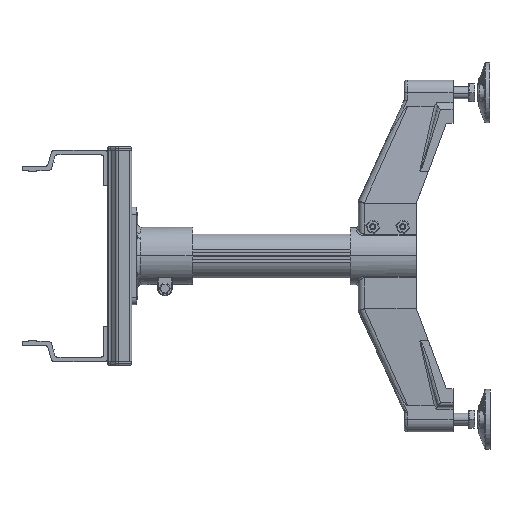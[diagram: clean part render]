
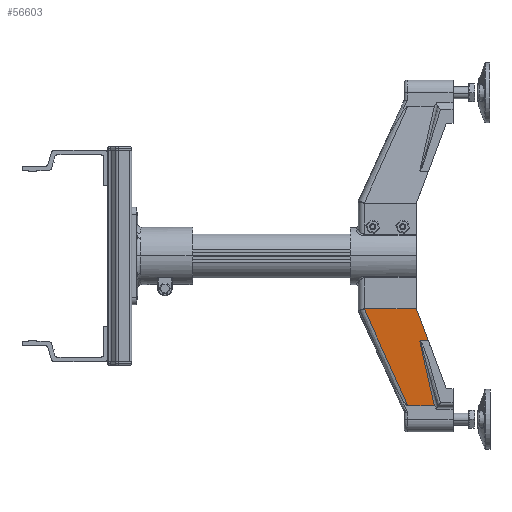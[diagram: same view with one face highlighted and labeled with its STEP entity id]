
A CAD part, left-side view. The second image highlights one B-rep face of the part: STEP entity #56603.
In plain terms, the highlighted planar face has unit normal (-0.998, 0, -0.069).
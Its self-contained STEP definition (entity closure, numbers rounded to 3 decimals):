
#3808 = ORIENTED_EDGE ( 'NONE', *, *, #59118, .T. ) ;
#3809 = ORIENTED_EDGE ( 'NONE', *, *, #58852, .T. ) ;
#8976 = CARTESIAN_POINT ( 'NONE',  ( -447.786, -90.076, 161.421 ) ) ;
#8977 = CARTESIAN_POINT ( 'NONE',  ( -448.439, -86.561, 170.797 ) ) ;
#8978 = CARTESIAN_POINT ( 'NONE',  ( -449.091, -83.042, 180.172 ) ) ;
#8979 = CARTESIAN_POINT ( 'NONE',  ( -449.743, -79.512, 189.543 ) ) ;
#8980 = B_SPLINE_CURVE_WITH_KNOTS ( 'NONE', 3,
 ( #8979, #8978, #8977, #8976 ),
 .UNSPECIFIED., .F., .F.,
 ( 4, 4 ),
 ( 0.016, 0.046 ),
 .UNSPECIFIED. ) ;
#11270 = CARTESIAN_POINT ( 'NONE',  ( -449.743, -79.512, 189.543 ) ) ;
#23141 = CARTESIAN_POINT ( 'NONE',  ( -441.786, -62.597, 75.221 ) ) ;
#23364 = CARTESIAN_POINT ( 'NONE',  ( -441.786, -97.946, 75.221 ) ) ;
#23402 = CARTESIAN_POINT ( 'NONE',  ( -447.786, -90.076, 161.421 ) ) ;
#25624 = DIRECTION ( 'NONE',  ( 0., -1., 0. ) ) ;
#25628 = VECTOR ( 'NONE', #25624, 1000. ) ;
#25629 = CARTESIAN_POINT ( 'NONE',  ( -450.786, 3.007, 204.521 ) ) ;
#25632 = LINE ( 'NONE', #25629, #25628 ) ;
#26353 =( BOUNDED_CURVE ( )  B_SPLINE_CURVE ( 3, ( #26423, #26422, #26421, #26420 ),
 .UNSPECIFIED., .F., .T. ) 
 B_SPLINE_CURVE_WITH_KNOTS ( ( 4, 4 ),
 ( 3.142, 3.198 ),
 .UNSPECIFIED. ) 
 CURVE ( )  GEOMETRIC_REPRESENTATION_ITEM ( )  RATIONAL_B_SPLINE_CURVE ( ( 1., 1., 1., 1. ) ) 
 REPRESENTATION_ITEM ( '' )  );
#26359 = PLANE ( 'NONE',  #26366 ) ;
#26365 = CARTESIAN_POINT ( 'NONE',  ( -434.947, 3.007, -23.033 ) ) ;
#26366 = AXIS2_PLACEMENT_3D ( 'NONE', #26365, #26426, #26425 ) ;
#26420 = CARTESIAN_POINT ( 'NONE',  ( -450.773, -4.54, 204.337 ) ) ;
#26421 = CARTESIAN_POINT ( 'NONE',  ( -450.782, -4.691, 204.46 ) ) ;
#26422 = CARTESIAN_POINT ( 'NONE',  ( -450.786, -4.842, 204.521 ) ) ;
#26423 = CARTESIAN_POINT ( 'NONE',  ( -450.786, -4.993, 204.521 ) ) ;
#26424 = FACE_OUTER_BOUND ( 'NONE', #52205, .T. ) ;
#26425 = DIRECTION ( 'NONE',  ( -0.069, 0., 0.998 ) ) ;
#26426 = DIRECTION ( 'NONE',  ( -0.998, 0., -0.069 ) ) ;
#26552 = CARTESIAN_POINT ( 'NONE',  ( -450.786, -74.037, 204.521 ) ) ;
#26746 = CARTESIAN_POINT ( 'NONE',  ( -450.691, -74.371, 203.163 ) ) ;
#26774 = CARTESIAN_POINT ( 'NONE',  ( -447.774, -78.652, 161.248 ) ) ;
#27649 = CARTESIAN_POINT ( 'NONE',  ( -447.786, -79.194, 161.421 ) ) ;
#27878 = CARTESIAN_POINT ( 'NONE',  ( -450.773, -4.54, 204.337 ) ) ;
#28211 = CARTESIAN_POINT ( 'NONE',  ( -450.786, -74.037, 204.521 ) ) ;
#28212 = CARTESIAN_POINT ( 'NONE',  ( -450.753, -74.095, 204.055 ) ) ;
#28213 = CARTESIAN_POINT ( 'NONE',  ( -450.722, -74.205, 203.602 ) ) ;
#28214 = CARTESIAN_POINT ( 'NONE',  ( -450.691, -74.371, 203.163 ) ) ;
#28215 = B_SPLINE_CURVE_WITH_KNOTS ( 'NONE', 3,
 ( #28214, #28213, #28212, #28211 ),
 .UNSPECIFIED., .F., .F.,
 ( 4, 4 ),
 ( 0., 0.001 ),
 .UNSPECIFIED. ) ;
#28884 = CARTESIAN_POINT ( 'NONE',  ( -450.786, -4.993, 204.521 ) ) ;
#33384 = CARTESIAN_POINT ( 'NONE',  ( -441.786, -62.597, 75.221 ) ) ;
#33385 = CARTESIAN_POINT ( 'NONE',  ( -443.284, -52.923, 96.742 ) ) ;
#33386 = CARTESIAN_POINT ( 'NONE',  ( -444.782, -43.249, 118.262 ) ) ;
#33387 = CARTESIAN_POINT ( 'NONE',  ( -447.777, -23.896, 161.3 ) ) ;
#33388 = CARTESIAN_POINT ( 'NONE',  ( -449.275, -14.215, 182.817 ) ) ;
#33389 = CARTESIAN_POINT ( 'NONE',  ( -450.773, -4.54, 204.337 ) ) ;
#33390 = B_SPLINE_CURVE_WITH_KNOTS ( 'NONE', 3,
 ( #33389, #33388, #33387, #33386, #33385, #33384 ),
 .UNSPECIFIED., .F., .F.,
 ( 4, 2, 4 ),
 ( 0., 0.071, 0.142 ),
 .UNSPECIFIED. ) ;
#34518 = CARTESIAN_POINT ( 'NONE',  ( -447.786, -79.194, 161.421 ) ) ;
#34519 = CARTESIAN_POINT ( 'NONE',  ( -447.786, -79.096, 161.421 ) ) ;
#34520 = CARTESIAN_POINT ( 'NONE',  ( -447.785, -79.001, 161.411 ) ) ;
#34521 = CARTESIAN_POINT ( 'NONE',  ( -447.781, -78.814, 161.358 ) ) ;
#34522 = CARTESIAN_POINT ( 'NONE',  ( -447.778, -78.723, 161.314 ) ) ;
#34523 = CARTESIAN_POINT ( 'NONE',  ( -447.774, -78.652, 161.248 ) ) ;
#34524 = B_SPLINE_CURVE_WITH_KNOTS ( 'NONE', 3,
 ( #34523, #34522, #34521, #34520, #34519, #34518 ),
 .UNSPECIFIED., .F., .F.,
 ( 4, 2, 4 ),
 ( 0., 0., 0.001 ),
 .UNSPECIFIED. ) ;
#34887 = LINE ( 'NONE', #35065, #35064 ) ;
#35063 = DIRECTION ( 'NONE',  ( 0., -1., 0. ) ) ;
#35064 = VECTOR ( 'NONE', #35063, 1000. ) ;
#35065 = CARTESIAN_POINT ( 'NONE',  ( -447.786, -122.993, 161.421 ) ) ;
#35832 = CARTESIAN_POINT ( 'NONE',  ( -449.743, -79.512, 189.543 ) ) ;
#35833 = CARTESIAN_POINT ( 'NONE',  ( -450.059, -77.802, 194.084 ) ) ;
#35834 = CARTESIAN_POINT ( 'NONE',  ( -450.375, -76.089, 198.624 ) ) ;
#35835 = CARTESIAN_POINT ( 'NONE',  ( -450.691, -74.371, 203.163 ) ) ;
#35836 = B_SPLINE_CURVE_WITH_KNOTS ( 'NONE', 3,
 ( #35835, #35834, #35833, #35832 ),
 .UNSPECIFIED., .F., .F.,
 ( 4, 4 ),
 ( 0.001, 0.016 ),
 .UNSPECIFIED. ) ;
#36006 = DIRECTION ( 'NONE',  ( -0.068, 0.218, 0.974 ) ) ;
#36007 = VECTOR ( 'NONE', #36006, 1000. ) ;
#36008 = CARTESIAN_POINT ( 'NONE',  ( -447.711, -78.854, 160.349 ) ) ;
#36009 = LINE ( 'NONE', #36008, #36007 ) ;
#37075 = DIRECTION ( 'NONE',  ( 0., -1., 0. ) ) ;
#37076 = VECTOR ( 'NONE', #37075, 1000. ) ;
#37077 = CARTESIAN_POINT ( 'NONE',  ( -441.786, 3.007, 75.221 ) ) ;
#37078 = LINE ( 'NONE', #37077, #37076 ) ;
#50913 = EDGE_CURVE ( 'NONE', #51869, #55618, #8980, .T. ) ;
#51869 = VERTEX_POINT ( 'NONE', #11270 ) ;
#52205 = EDGE_LOOP ( 'NONE', ( #57077, #56619, #56398, #56397, #3809, #3808, #56405, #56404, #56411, #56410 ) ) ;
#55618 = VERTEX_POINT ( 'NONE', #23402 ) ;
#55634 = VERTEX_POINT ( 'NONE', #23364 ) ;
#55694 = VERTEX_POINT ( 'NONE', #23141 ) ;
#56397 = ORIENTED_EDGE ( 'NONE', *, *, #59402, .T. ) ;
#56398 = ORIENTED_EDGE ( 'NONE', *, *, #59531, .T. ) ;
#56404 = ORIENTED_EDGE ( 'NONE', *, *, #59358, .F. ) ;
#56405 = ORIENTED_EDGE ( 'NONE', *, *, #50913, .F. ) ;
#56410 = ORIENTED_EDGE ( 'NONE', *, *, #56422, .F. ) ;
#56411 = ORIENTED_EDGE ( 'NONE', *, *, #56971, .T. ) ;
#56422 = EDGE_CURVE ( 'NONE', #57314, #56669, #25632, .T. ) ;
#56603 = ADVANCED_FACE ( 'NONE', ( #26424 ), #26359, .T. ) ;
#56619 = ORIENTED_EDGE ( 'NONE', *, *, #57078, .T. ) ;
#56620 = EDGE_CURVE ( 'NONE', #57314, #56977, #26353, .T. ) ;
#56669 = VERTEX_POINT ( 'NONE', #26552 ) ;
#56739 = VERTEX_POINT ( 'NONE', #26746 ) ;
#56756 = VERTEX_POINT ( 'NONE', #26774 ) ;
#56903 = VERTEX_POINT ( 'NONE', #27649 ) ;
#56971 = EDGE_CURVE ( 'NONE', #56739, #56669, #28215, .T. ) ;
#56977 = VERTEX_POINT ( 'NONE', #27878 ) ;
#57077 = ORIENTED_EDGE ( 'NONE', *, *, #56620, .T. ) ;
#57078 = EDGE_CURVE ( 'NONE', #56977, #55694, #33390, .T. ) ;
#57314 = VERTEX_POINT ( 'NONE', #28884 ) ;
#58852 = EDGE_CURVE ( 'NONE', #56756, #56903, #34524, .T. ) ;
#59118 = EDGE_CURVE ( 'NONE', #56903, #55618, #34887, .T. ) ;
#59358 = EDGE_CURVE ( 'NONE', #56739, #51869, #35836, .T. ) ;
#59402 = EDGE_CURVE ( 'NONE', #55634, #56756, #36009, .T. ) ;
#59531 = EDGE_CURVE ( 'NONE', #55694, #55634, #37078, .T. ) ;
